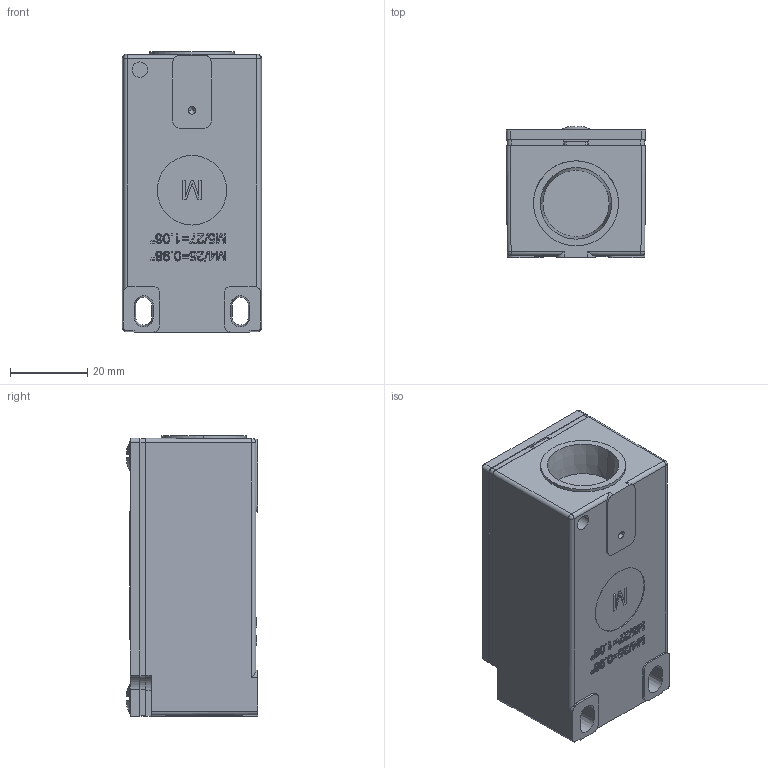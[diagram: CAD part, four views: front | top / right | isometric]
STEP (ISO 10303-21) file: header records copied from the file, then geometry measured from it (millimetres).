
FILE_DESCRIPTION((''),'2;1');
FILE_NAME('6021370629_KOER_SW0002','2025-02-19T07:32:20',('Hartwig.Bicknese'),(''),'CREO PARAMETRIC BY PTC INC, 2022124','CREO PARAMETRIC BY PTC INC, 2022124','');
FILE_SCHEMA(('AUTOMOTIVE_DESIGN { 1 0 10303 214 1 1 1 1 }'));
Length unit declared in the file: millimetre
Products named in the file (1): 6021370629_KOER_SW0002
Bounding box: 36 x 34.02 x 72.7 mm (x, y, z)
Volume: 76514.5 mm3; surface area: 15300.6 mm2
Topology: 1 solids, 1 shells, 659 faces, 1731 edges, 1113 vertices
Faces by surface type: plane 328, extrusion 211, cylinder 60, cone 44, torus 8, sphere 6, bspline 2
Entity records: 32836 total; most frequent: CARTESIAN_POINT 6385, ORIENTED_EDGE 3442, PRESENTATION_STYLE_ASSIGNMENT 2592, DIRECTION 2562, STYLED_ITEM 1933, CURVE_STYLE 1932, EDGE_CURVE 1721, VECTOR 1256
